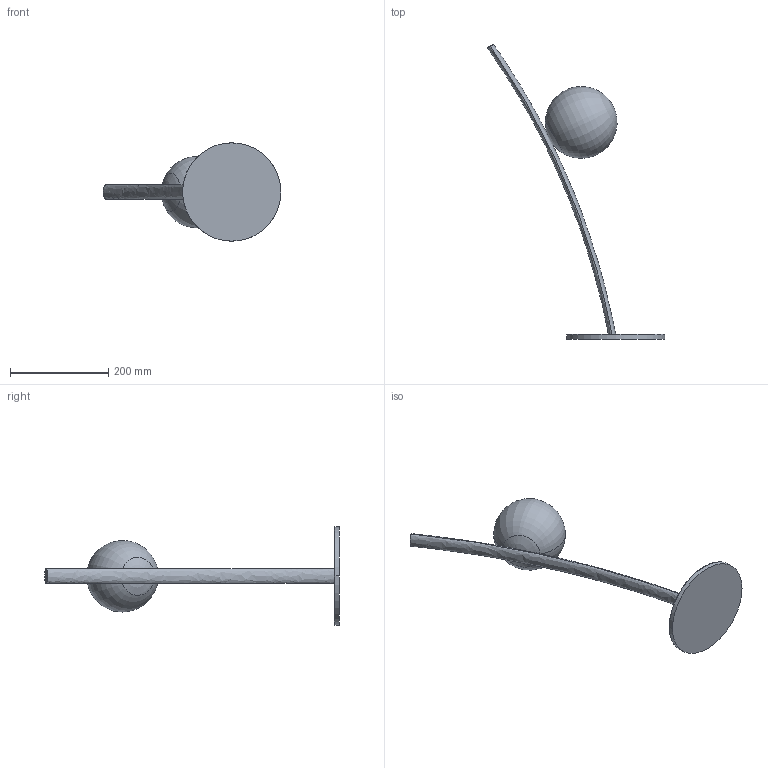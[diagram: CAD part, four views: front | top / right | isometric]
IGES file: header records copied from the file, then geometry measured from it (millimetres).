
Start section: SolidWorks IGES file using analytic representation for surfaces
Global section: file name: Y:\eforma\TECNICO\SOLIDWORKS\E-FORMA\09-LAMPADE\VIDA\02 parts\VIDL2_Vida.IGS; native system: SolidWorks 2022; preprocessor: SolidWorks 2022; author: eforma.tech; date: 240806.103434; units: millimetre
Bounding box: 361.71 x 599.94 x 200 mm (x, y, z)
Volume: 2167613.6 mm3; surface area: 182978.9 mm2
Topology: 3 solids, 3 shells, 14 faces, 26 edges, 14 vertices
Faces by surface type: revolution 8, plane 4, bspline 2
